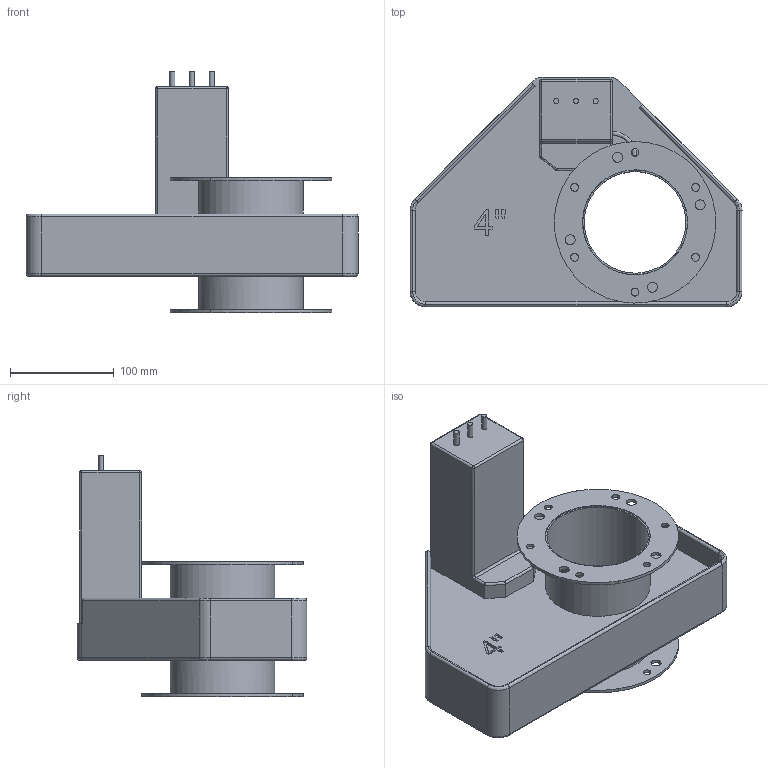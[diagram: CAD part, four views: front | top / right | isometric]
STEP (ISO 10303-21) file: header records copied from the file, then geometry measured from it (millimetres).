
FILE_DESCRIPTION( ('This file contains a STEP AP42 implementation' ,'as created by ZW3D STEP Interface translator.') ,'2;1' );
FILE_NAME( '3D Model-HO204 Body with drive.stp' ,'20 629.121333', (''), ('ZWCAD Software Co.'), 'Version 1.0', 'ZW3D to STEP translator', '' );
FILE_SCHEMA(('AUTOMOTIVE_DESIGN'));
Length unit declared in the file: millimetre
Products named in the file (1): 0
Bounding box: 320.71 x 221.99 x 233.3 mm (x, y, z)
Volume: 1551997.1 mm3; surface area: 354270.1 mm2
Topology: 4 solids, 4 shells, 617 faces, 1951 edges, 1778 vertices
Faces by surface type: bspline 617
Entity records: 21721 total; most frequent: CARTESIAN_POINT 10796, ORIENTED_EDGE 3114, B_SPLINE_CURVE_WITH_KNOTS 1630, EDGE_CURVE 1557, VERTEX_POINT 1004, EDGE_LOOP 719, FACE_OUTER_BOUND 617, ADVANCED_FACE 617
